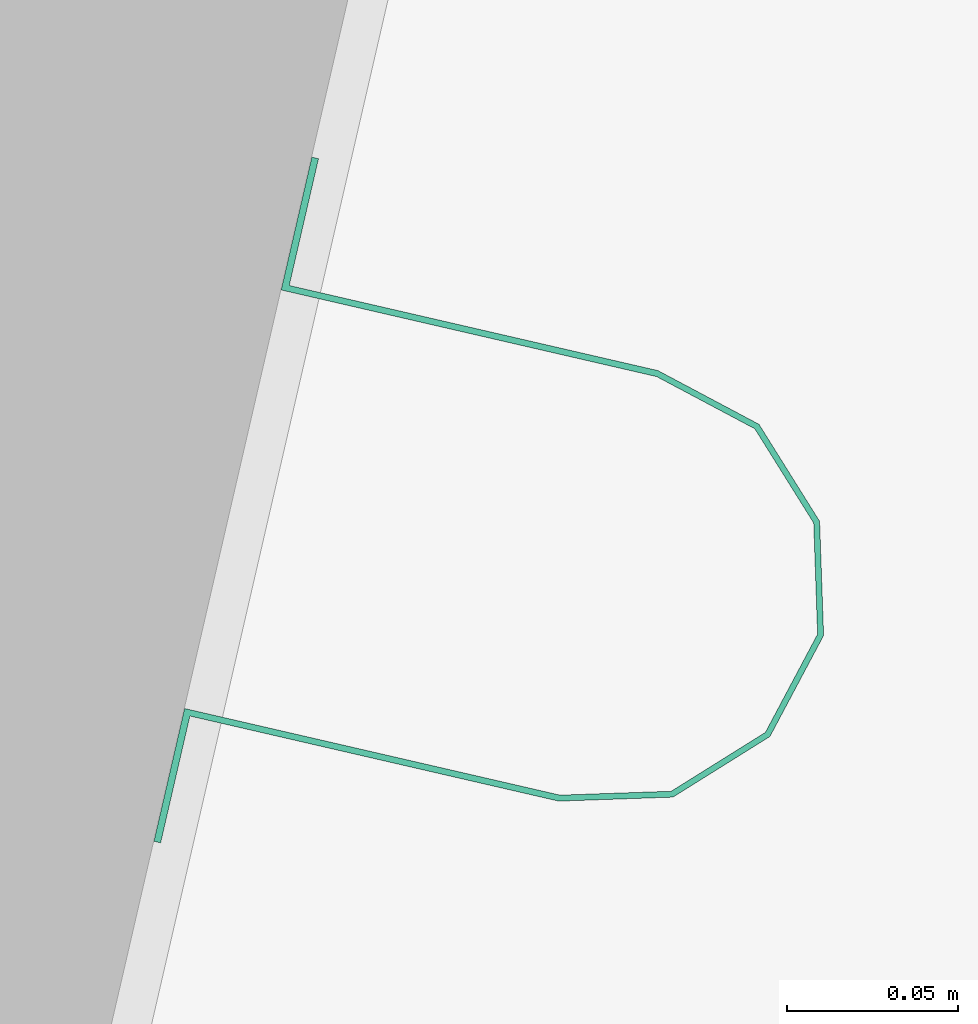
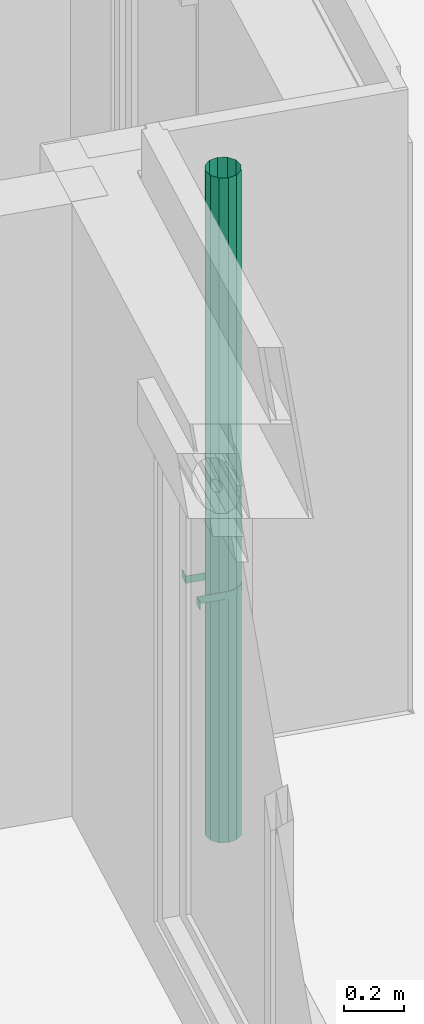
# One storey, part 105 of 119: 1 flow terminal.
"""IFC2X3 building model written with IfcOpenShell, lengths in metres."""

from ifc_helpers import new_model, entity, si_unit, converted_unit, derived_unit, money_unit, direction, frame, origin_with_axes, place, context, subcontext, project, spatial, open_shell, faceted_brep, surface_model, source, transform, mapped, type_object, element, save


model = new_model("IFC2X3")

# Units and contexts
model_context = context("Model", 3, precision=1e-05, world=origin_with_axes(), true_north=direction((0.0, 1.0)))
body_context = subcontext(model_context, "Body", "Model", "MODEL_VIEW")
ifc_project = project(units=[si_unit("LENGTHUNIT", "METRE"), si_unit("AREAUNIT", "SQUARE_METRE"), si_unit("VOLUMEUNIT", "CUBIC_METRE"), converted_unit("PLANEANGLEUNIT", "DEGREE", entity("IfcPlaneAngleMeasure", 0.0174532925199), si_unit("PLANEANGLEUNIT", "RADIAN"), dimensions=[0, 0, 0, 0, 0, 0, 0]), si_unit("SOLIDANGLEUNIT", "STERADIAN"), money_unit("EUR"), converted_unit("TIMEUNIT", "Year", entity("IfcTimeMeasure", 31556926.0), si_unit("TIMEUNIT", "SECOND"), dimensions=[0, 0, 1, 0, 0, 0, 0]), si_unit("MASSUNIT", "GRAM", prefix="KILO"), si_unit("THERMODYNAMICTEMPERATUREUNIT", "DEGREE_CELSIUS"), si_unit("LUMINOUSINTENSITYUNIT", "LUMEN"), si_unit("ENERGYUNIT", "JOULE", prefix="MEGA"), derived_unit("THERMALCONDUCTANCEUNIT", [(si_unit("POWERUNIT", "WATT"), 1), (si_unit("LENGTHUNIT", "METRE"), -1), (si_unit("THERMODYNAMICTEMPERATUREUNIT", "KELVIN"), -1)]), derived_unit("SPECIFICHEATCAPACITYUNIT", [(si_unit("ENERGYUNIT", "JOULE"), 1), (si_unit("MASSUNIT", "GRAM", prefix="KILO"), -1), (si_unit("THERMODYNAMICTEMPERATUREUNIT", "KELVIN"), -1)]), derived_unit("MASSDENSITYUNIT", [(si_unit("MASSUNIT", "GRAM", prefix="KILO"), 1), (si_unit("VOLUMEUNIT", "CUBIC_METRE"), -1)])], contexts=[model_context])

# Site, building, storey
site_placement = place(None, origin_with_axes())
site = spatial("IfcSite", under=ifc_project, at=site_placement, Name="Site", CompositionType="ELEMENT")
building_placement = place(site_placement, origin_with_axes())
building = spatial("IfcBuilding", under=site, at=building_placement, Name="Bâtiment", CompositionType="ELEMENT")
storey_placement = place(building_placement, origin_with_axes())
storey = spatial("IfcBuildingStorey", under=building, at=storey_placement, Name="Rez-de-chaussée", CompositionType="ELEMENT", Elevation=0.0)

# Flow terminal
waste_terminal_type = type_object("IfcWasteTerminalType", Name="Tuyau descente 23", PredefinedType="GULLYTRAP")
shared_shape = source(origin_with_axes(), body_context, "Body", "SurfaceModel", [
    surface_model("IfcShellBasedSurfaceModel", [(0.0625, -0.0500000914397, 2.7222918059), (0.0541265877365, -0.0812500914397, 2.7222918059), (0.0541265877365, -0.0812500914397, 0.0), (0.0625, -0.0500000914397, 0.0), (0.03125, -0.104126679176, 2.7222918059), (0.03125, -0.104126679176, 0.0), (0.0541265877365, -0.0187500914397, 2.7222918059), (0.0541265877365, -0.0187500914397, 0.0), (0.0, -0.11250009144, 2.7222918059), (0.0, -0.11250009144, 0.0), (0.03125, 0.0041264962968, 2.7222918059), (0.03125, 0.0041264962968, 0.0), (-0.03125, -0.104126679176, 2.7222918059), (-0.03125, -0.104126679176, 0.0), (0.0, 0.0124999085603, 2.7222918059), (0.0, 0.0124999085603, 0.0), (-0.0541265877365, -0.0812500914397, 2.7222918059), (-0.0541265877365, -0.0812500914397, 0.0), (-0.03125, 0.0041264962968, 2.7222918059), (-0.03125, 0.0041264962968, 0.0), (-0.0625, -0.0500000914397, 2.7222918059), (-0.0625, -0.0500000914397, 0.0), (-0.0541265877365, -0.0187500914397, 2.7222918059), (-0.0541265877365, -0.0187500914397, 0.0)], [open_shell([[[0, 1, 2, 3]], [[1, 4, 5, 2]], [[6, 0, 3, 7]], [[4, 8, 9, 5]], [[10, 6, 7, 11]], [[8, 12, 13, 9]], [[14, 10, 11, 15]], [[12, 16, 17, 13]], [[18, 14, 15, 19]], [[16, 20, 21, 17]], [[22, 18, 19, 23]], [[20, 22, 23, 21]]])]),
    faceted_brep([(-0.1025, 0.0604, 1.0), (-0.0645, 0.0604, 1.0), (-0.0645, 0.0604, 1.03), (-0.1025, 0.0604, 1.03), (-0.1025, 0.0624, 1.0), (-0.0627, 0.0624, 1.0), (-0.0627, -0.0501000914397, 1.0), (-0.0542997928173, -0.0814500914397, 1.0), (-0.03135, -0.104399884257, 1.0), (0.0, -0.11280009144, 1.0), (0.03135, -0.104399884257, 1.0), (0.0542997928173, -0.0814500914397, 1.0), (0.0627, -0.0501000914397, 1.0), (0.0627, 0.0624, 1.0), (0.1025, 0.0624, 1.0), (0.1025, 0.0604, 1.0), (0.0645, 0.0604, 1.0), (0.0645, -0.0501000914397, 1.0), (0.0558586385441, -0.0823500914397, 1.0), (0.03225, -0.105958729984, 1.0), (0.0, -0.11460009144, 1.0), (-0.03225, -0.105958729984, 1.0), (-0.0558586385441, -0.0823500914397, 1.0), (-0.0645, -0.0501000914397, 1.0), (-0.0645, -0.0501000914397, 1.03), (-0.0558586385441, -0.0823500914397, 1.03), (-0.03225, -0.105958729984, 1.03), (0.0, -0.11460009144, 1.03), (0.03225, -0.105958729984, 1.03), (0.0558586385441, -0.0823500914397, 1.03), (0.0645, -0.0501000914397, 1.03), (0.0645, 0.0604, 1.03), (0.1025, 0.0604, 1.03), (0.1025, 0.0624, 1.03), (0.0627, 0.0624, 1.03), (0.0627, -0.0501000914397, 1.03), (0.0542997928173, -0.0814500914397, 1.03), (0.03135, -0.104399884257, 1.03), (0.0, -0.11280009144, 1.03), (-0.03135, -0.104399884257, 1.03), (-0.0542997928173, -0.0814500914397, 1.03), (-0.0627, -0.0501000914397, 1.03), (-0.0627, 0.0624, 1.03), (-0.1025, 0.0624, 1.03)], [[[0, 1, 2, 3]], [[0, 4, 5, 6, 7, 8, 9, 10, 11, 12, 13, 14, 15, 16, 17, 18, 19, 20, 21, 22, 23, 1]], [[1, 23, 24, 2]], [[3, 2, 24, 25, 26, 27, 28, 29, 30, 31, 32, 33, 34, 35, 36, 37, 38, 39, 40, 41, 42, 43]], [[4, 0, 3, 43]], [[5, 4, 43, 42]], [[6, 5, 42, 41]], [[7, 6, 41, 40]], [[8, 7, 40, 39]], [[9, 8, 39, 38]], [[10, 9, 38, 37]], [[11, 10, 37, 36]], [[12, 11, 36, 35]], [[13, 12, 35, 34]], [[14, 13, 34, 33]], [[15, 14, 33, 32]], [[16, 15, 32, 31]], [[17, 16, 31, 30]], [[18, 17, 30, 29]], [[19, 18, 29, 28]], [[20, 19, 28, 27]], [[21, 20, 27, 26]], [[22, 21, 26, 25]], [[23, 22, 25, 24]]]),
])
flow_terminal_placement = place(storey_placement, frame((-1.11037446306, 6.39538001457, 0.0), z_axis=(0.0, 0.0, 1.0), x_axis=(0.224876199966, 0.974387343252, 0.0)))
element("IfcFlowTerminal", 1, at=flow_terminal_placement, inside=storey, type_object=waste_terminal_type, Name="MOB-006", context=body_context, shape_type="MappedRepresentation", body=[
    mapped(shared_shape, transform((0.0, 0.0, 0.0))),
])

save(model, "model.ifc")
